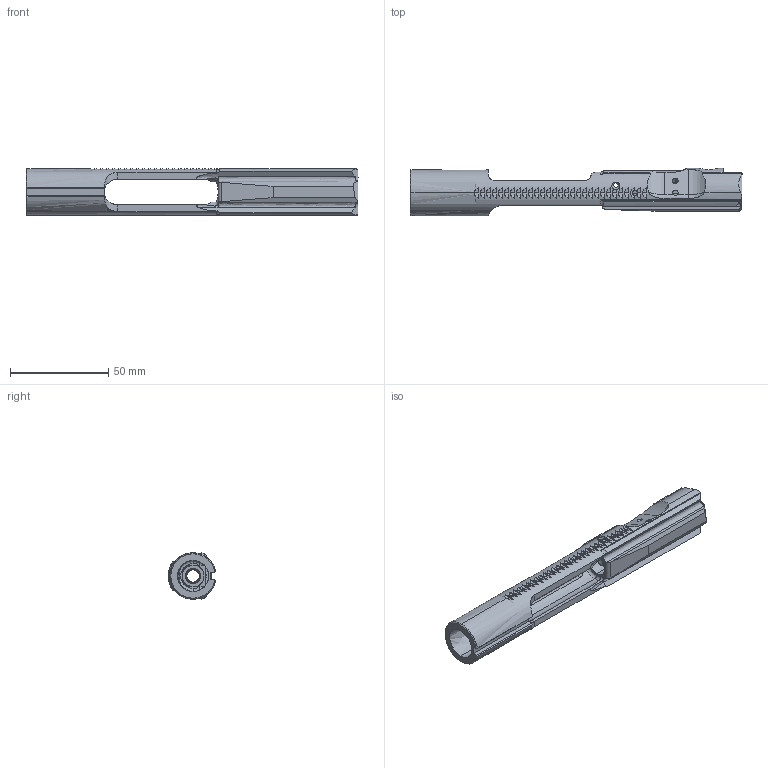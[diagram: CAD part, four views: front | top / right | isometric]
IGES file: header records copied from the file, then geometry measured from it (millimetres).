
Start section: SolidWorks IGES file using analytic representation for surfaces
Global section: file name: C:\Users\Reimo S\SolidWorks\Arms\AR15\Solidworks\M16 Bolt Carrier.IGS; native system: SolidWorks 2010; preprocessor: SolidWorks 2010; author: Reimo S; date: 110816.123419; units: millimetre
Bounding box: 169.16 x 24.08 x 23.6 mm (x, y, z)
Surface area: 18903 mm2 (no closed solid volume)
Topology: 0 solids, 0 shells, 254 faces, 3960 edges, 3960 vertices
Faces by surface type: revolution 149, bspline 105
